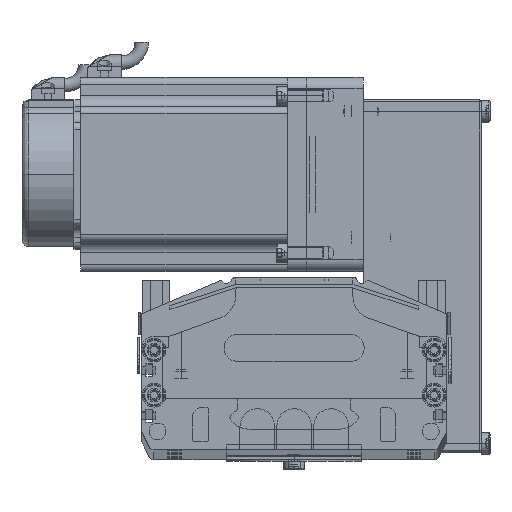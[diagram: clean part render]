
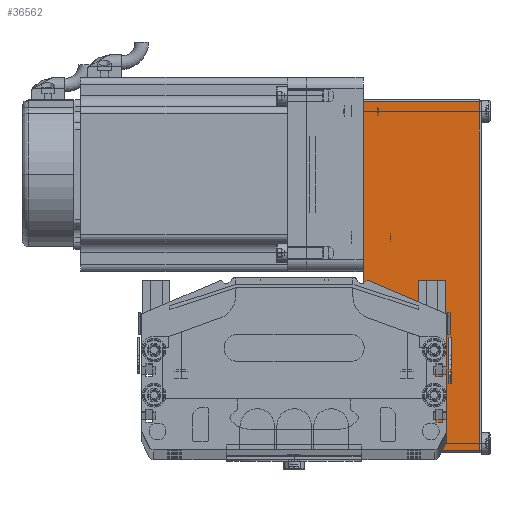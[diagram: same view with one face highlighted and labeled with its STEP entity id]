
A CAD part, top view. The second image highlights one B-rep face of the part: STEP entity #36562.
In plain terms, the highlighted planar face has unit normal (0, 0, 1) as drawn and (0, -1, 0) by its records, which use the part's own axes.
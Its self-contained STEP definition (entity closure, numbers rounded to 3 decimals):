
#36154 = EDGE_CURVE ( 'NONE', #36158, #36389, #53755, .T. ) ;
#36158 = VERTEX_POINT ( 'NONE', #53742 ) ;
#36353 = VERTEX_POINT ( 'NONE', #55095 ) ;
#36356 = ORIENTED_EDGE ( 'NONE', *, *, #36472, .T. ) ;
#36358 = EDGE_CURVE ( 'NONE', #36389, #36368, #54766, .T. ) ;
#36368 = VERTEX_POINT ( 'NONE', #54959 ) ;
#36389 = VERTEX_POINT ( 'NONE', #54934 ) ;
#36391 = EDGE_LOOP ( 'NONE', ( #36500, #36471, #36356, #36498 ) ) ;
#36471 = ORIENTED_EDGE ( 'NONE', *, *, #36358, .T. ) ;
#36472 = EDGE_CURVE ( 'NONE', #36368, #36353, #55258, .T. ) ;
#36498 = ORIENTED_EDGE ( 'NONE', *, *, #36636, .T. ) ;
#36500 = ORIENTED_EDGE ( 'NONE', *, *, #36154, .T. ) ;
#36562 = ADVANCED_FACE ( 'NONE', ( #56330 ), #56329, .F. ) ;
#36636 = EDGE_CURVE ( 'NONE', #36353, #36158, #56159, .T. ) ;
#53742 = CARTESIAN_POINT ( 'NONE',  ( -123.2, -40., 0. ) ) ;
#53744 = DIRECTION ( 'NONE',  ( 1., 0., 0. ) ) ;
#53746 = VECTOR ( 'NONE', #53744, 1000. ) ;
#53747 = CARTESIAN_POINT ( 'NONE',  ( 32., -40., 0. ) ) ;
#53755 = LINE ( 'NONE', #53747, #53746 ) ;
#54766 = LINE ( 'NONE', #54969, #54967 ) ;
#54934 = CARTESIAN_POINT ( 'NONE',  ( 31., -40., 0. ) ) ;
#54959 = CARTESIAN_POINT ( 'NONE',  ( 31., -40., 51.5 ) ) ;
#54965 = DIRECTION ( 'NONE',  ( 0., 0., 1. ) ) ;
#54967 = VECTOR ( 'NONE', #54965, 1000. ) ;
#54969 = CARTESIAN_POINT ( 'NONE',  ( 31., -40., 52.5 ) ) ;
#55095 = CARTESIAN_POINT ( 'NONE',  ( -123.2, -40., 51.5 ) ) ;
#55258 = LINE ( 'NONE', #55324, #55870 ) ;
#55324 = CARTESIAN_POINT ( 'NONE',  ( 32., -40., 51.5 ) ) ;
#55747 = DIRECTION ( 'NONE',  ( -1., 0., 0. ) ) ;
#55870 = VECTOR ( 'NONE', #55747, 1000. ) ;
#55982 = DIRECTION ( 'NONE',  ( 0., 1., 0. ) ) ;
#55983 = CARTESIAN_POINT ( 'NONE',  ( 32., -40., 52.5 ) ) ;
#56159 = LINE ( 'NONE', #56531, #56529 ) ;
#56300 = DIRECTION ( 'NONE',  ( -1., 0., 0. ) ) ;
#56319 = AXIS2_PLACEMENT_3D ( 'NONE', #55983, #55982, #56300 ) ;
#56329 = PLANE ( 'NONE',  #56319 ) ;
#56330 = FACE_OUTER_BOUND ( 'NONE', #36391, .T. ) ;
#56526 = DIRECTION ( 'NONE',  ( 0., 0., -1. ) ) ;
#56529 = VECTOR ( 'NONE', #56526, 1000. ) ;
#56531 = CARTESIAN_POINT ( 'NONE',  ( -123.2, -40., 52.5 ) ) ;
